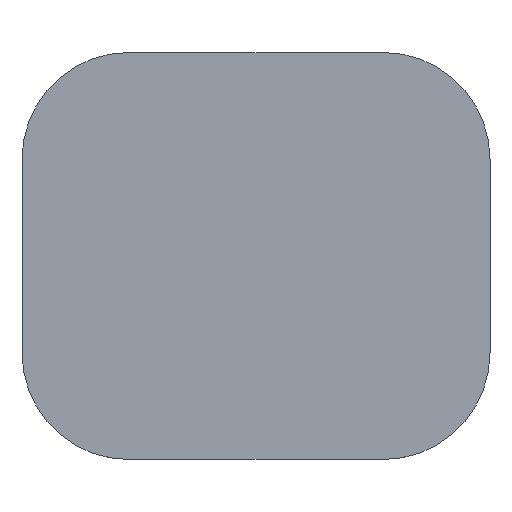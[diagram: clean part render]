
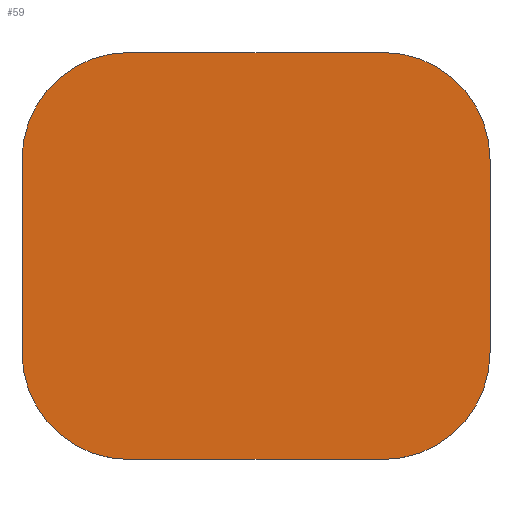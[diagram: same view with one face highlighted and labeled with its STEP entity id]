
A CAD part, top view. The second image highlights one B-rep face of the part: STEP entity #59.
In plain terms, the highlighted planar face has unit normal (0, 0, 1).
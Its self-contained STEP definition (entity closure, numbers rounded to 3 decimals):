
#21 = EDGE_CURVE('',#22,#24,#26,.T.);
#22 = VERTEX_POINT('',#23);
#23 = CARTESIAN_POINT('',(0.,10.5,2.2));
#24 = VERTEX_POINT('',#25);
#25 = CARTESIAN_POINT('',(10.5,0.,2.2));
#26 = CIRCLE('',#27,10.5);
#27 = AXIS2_PLACEMENT_3D('',#28,#29,#30);
#28 = CARTESIAN_POINT('',(10.5,10.5,2.2));
#29 = DIRECTION('',(0.,0.,1.));
#30 = DIRECTION('',(1.,0.,-0.));
#59 = ADVANCED_FACE('',(#60),#120,.T.);
#60 = FACE_BOUND('',#61,.T.);
#61 = EDGE_LOOP('',(#62,#63,#71,#80,#88,#97,#105,#114));
#62 = ORIENTED_EDGE('',*,*,#21,.T.);
#63 = ORIENTED_EDGE('',*,*,#64,.T.);
#64 = EDGE_CURVE('',#24,#65,#67,.T.);
#65 = VERTEX_POINT('',#66);
#66 = CARTESIAN_POINT('',(35.5,0.,2.2));
#67 = LINE('',#68,#69);
#68 = CARTESIAN_POINT('',(10.5,0.,2.2));
#69 = VECTOR('',#70,1.);
#70 = DIRECTION('',(1.,0.,-0.));
#71 = ORIENTED_EDGE('',*,*,#72,.T.);
#72 = EDGE_CURVE('',#65,#73,#75,.T.);
#73 = VERTEX_POINT('',#74);
#74 = CARTESIAN_POINT('',(46.,10.5,2.2));
#75 = CIRCLE('',#76,10.5);
#76 = AXIS2_PLACEMENT_3D('',#77,#78,#79);
#77 = CARTESIAN_POINT('',(35.5,10.5,2.2));
#78 = DIRECTION('',(0.,0.,1.));
#79 = DIRECTION('',(1.,0.,-0.));
#80 = ORIENTED_EDGE('',*,*,#81,.T.);
#81 = EDGE_CURVE('',#73,#82,#84,.T.);
#82 = VERTEX_POINT('',#83);
#83 = CARTESIAN_POINT('',(46.,29.5,2.2));
#84 = LINE('',#85,#86);
#85 = CARTESIAN_POINT('',(46.,10.5,2.2));
#86 = VECTOR('',#87,1.);
#87 = DIRECTION('',(-0.,1.,0.));
#88 = ORIENTED_EDGE('',*,*,#89,.T.);
#89 = EDGE_CURVE('',#82,#90,#92,.T.);
#90 = VERTEX_POINT('',#91);
#91 = CARTESIAN_POINT('',(35.5,40.,2.2));
#92 = CIRCLE('',#93,10.5);
#93 = AXIS2_PLACEMENT_3D('',#94,#95,#96);
#94 = CARTESIAN_POINT('',(35.5,29.5,2.2));
#95 = DIRECTION('',(0.,0.,1.));
#96 = DIRECTION('',(1.,0.,-0.));
#97 = ORIENTED_EDGE('',*,*,#98,.F.);
#98 = EDGE_CURVE('',#99,#90,#101,.T.);
#99 = VERTEX_POINT('',#100);
#100 = CARTESIAN_POINT('',(10.5,40.,2.2));
#101 = LINE('',#102,#103);
#102 = CARTESIAN_POINT('',(10.5,40.,2.2));
#103 = VECTOR('',#104,1.);
#104 = DIRECTION('',(1.,0.,-0.));
#105 = ORIENTED_EDGE('',*,*,#106,.T.);
#106 = EDGE_CURVE('',#99,#107,#109,.T.);
#107 = VERTEX_POINT('',#108);
#108 = CARTESIAN_POINT('',(0.,29.5,2.2));
#109 = CIRCLE('',#110,10.5);
#110 = AXIS2_PLACEMENT_3D('',#111,#112,#113);
#111 = CARTESIAN_POINT('',(10.5,29.5,2.2));
#112 = DIRECTION('',(0.,0.,1.));
#113 = DIRECTION('',(1.,0.,-0.));
#114 = ORIENTED_EDGE('',*,*,#115,.F.);
#115 = EDGE_CURVE('',#22,#107,#116,.T.);
#116 = LINE('',#117,#118);
#117 = CARTESIAN_POINT('',(0.,10.5,2.2));
#118 = VECTOR('',#119,1.);
#119 = DIRECTION('',(-0.,1.,0.));
#120 = PLANE('',#121);
#121 = AXIS2_PLACEMENT_3D('',#122,#123,#124);
#122 = CARTESIAN_POINT('',(23.,20.,2.2));
#123 = DIRECTION('',(0.,0.,1.));
#124 = DIRECTION('',(1.,0.,-0.));
